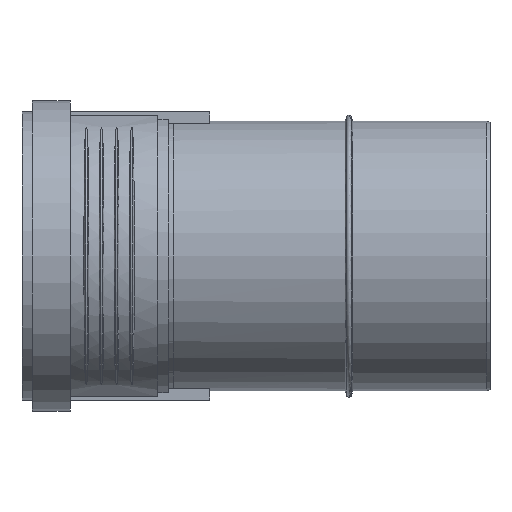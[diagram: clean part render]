
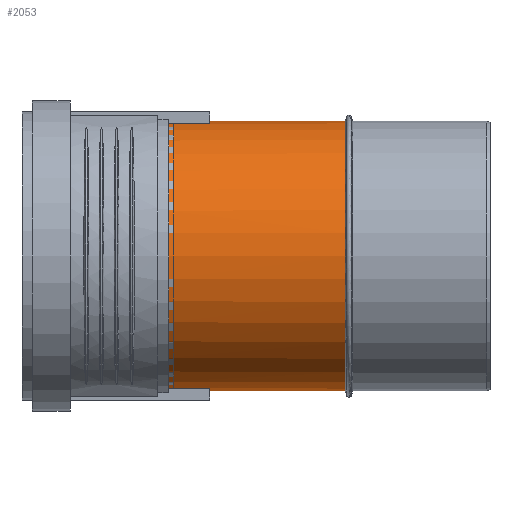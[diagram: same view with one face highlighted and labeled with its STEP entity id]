
A CAD part, left-side view. The second image highlights one B-rep face of the part: STEP entity #2053.
In plain terms, the highlighted cylindrical face has radius 80.125 mm (diameter 160.25 mm), a partial arc.
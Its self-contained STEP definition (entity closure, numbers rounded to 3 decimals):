
#262=CYLINDRICAL_SURFACE($,#2194,80.125);
#492=B_SPLINE_CURVE_WITH_KNOTS($,3,(#3081,#3082,#3083,#3084,#3085,#3086,
#3087,#3088,#3089,#3090,#3091,#3092,#3093,#3094,#3095,#3096),
 .UNSPECIFIED.,.F.,.F.,(4,2,2,2,2,2,2,4),(27.625,28.262,
29.339,30.416,31.494,32.573,33.651,
34.729),.UNSPECIFIED.);
#493=B_SPLINE_CURVE_WITH_KNOTS($,3,(#3098,#3099,#3100,#3101,#3102,#3103,
#3104,#3105,#3106,#3107,#3108,#3109,#3110,#3111,#3112,#3113),
 .UNSPECIFIED.,.F.,.F.,(4,2,2,2,2,2,2,4),(0.,1.108,2.215,
3.323,4.43,5.508,6.587,6.934),
 .UNSPECIFIED.);
#494=B_SPLINE_CURVE_WITH_KNOTS($,3,(#3116,#3117,#3118,#3119,#3120,#3121,
#3122,#3123,#3124,#3125,#3126,#3127,#3128,#3129,#3130,#3131,#3132,#3133,
#3134,#3135,#3136,#3137,#3138,#3139,#3140,#3141,#3142,#3143,#3144,#3145),
 .UNSPECIFIED.,.F.,.F.,(4,2,2,2,2,2,2,2,2,2,2,2,2,2,4),(10.553,
10.9,11.978,13.057,14.164,15.272,
16.379,17.487,18.565,19.643,20.722,
21.8,22.877,23.954,24.591),
 .UNSPECIFIED.);
#602=FACE_OUTER_BOUND($,#722,.T.);
#722=EDGE_LOOP($,(#1496,#1497,#1498,#1499,#1500));
#898=CIRCLE($,#2192,80.125);
#899=CIRCLE($,#2195,80.125);
#998=VERTEX_POINT($,#3063);
#999=VERTEX_POINT($,#3070);
#1000=VERTEX_POINT($,#3080);
#1001=VERTEX_POINT($,#3097);
#1002=VERTEX_POINT($,#3114);
#1209=EDGE_CURVE($,#998,#999,#898,.T.);
#1210=EDGE_CURVE($,#999,#1000,#492,.T.);
#1211=EDGE_CURVE($,#1000,#1001,#493,.T.);
#1212=EDGE_CURVE($,#1001,#1002,#899,.T.);
#1213=EDGE_CURVE($,#1002,#998,#494,.T.);
#1496=ORIENTED_EDGE($,*,*,#1209,.T.);
#1497=ORIENTED_EDGE($,*,*,#1210,.T.);
#1498=ORIENTED_EDGE($,*,*,#1211,.T.);
#1499=ORIENTED_EDGE($,*,*,#1212,.T.);
#1500=ORIENTED_EDGE($,*,*,#1213,.T.);
#2053=ADVANCED_FACE($,(#602),#262,.T.);
#2192=AXIS2_PLACEMENT_3D($,#3077,#2439,#2440);
#2194=AXIS2_PLACEMENT_3D($,#3079,#2443,#2444);
#2195=AXIS2_PLACEMENT_3D($,#3115,#2445,#2446);
#2439=DIRECTION('center_axis',(0.,1.,0.));
#2440=DIRECTION('ref_axis',(1.,0.,0.));
#2443=DIRECTION('center_axis',(0.,1.,0.));
#2444=DIRECTION('ref_axis',(1.,0.,0.));
#2445=DIRECTION('center_axis',(0.,-1.,0.));
#2446=DIRECTION('ref_axis',(1.,0.,0.));
#3063=CARTESIAN_POINT('',(78.651,86.1,-15.299));
#3070=CARTESIAN_POINT('',(78.651,86.1,15.299));
#3077=CARTESIAN_POINT('Origin',(0.,86.1,0.));
#3079=CARTESIAN_POINT('Origin',(0.,0.,0.));
#3080=CARTESIAN_POINT('',(58.172,138.19,55.1));
#3081=CARTESIAN_POINT('Ctrl Pts',(78.651,86.1,15.299));
#3082=CARTESIAN_POINT('Ctrl Pts',(78.242,86.691,17.403));
#3083=CARTESIAN_POINT('Ctrl Pts',(77.751,87.404,19.471));
#3084=CARTESIAN_POINT('Ctrl Pts',(76.249,89.625,24.868));
#3085=CARTESIAN_POINT('Ctrl Pts',(75.109,91.347,28.09));
#3086=CARTESIAN_POINT('Ctrl Pts',(72.621,95.278,34.008));
#3087=CARTESIAN_POINT('Ctrl Pts',(71.276,97.49,36.705));
#3088=CARTESIAN_POINT('Ctrl Pts',(68.616,102.168,41.465));
#3089=CARTESIAN_POINT('Ctrl Pts',(67.2,104.809,43.704));
#3090=CARTESIAN_POINT('Ctrl Pts',(64.444,110.585,47.675));
#3091=CARTESIAN_POINT('Ctrl Pts',(63.106,113.719,49.406));
#3092=CARTESIAN_POINT('Ctrl Pts',(60.799,120.333,52.219));
#3093=CARTESIAN_POINT('Ctrl Pts',(59.831,123.82,53.303));
#3094=CARTESIAN_POINT('Ctrl Pts',(58.515,130.951,54.744));
#3095=CARTESIAN_POINT('Ctrl Pts',(58.172,134.596,55.1));
#3096=CARTESIAN_POINT('Ctrl Pts',(58.172,138.19,55.1));
#3097=CARTESIAN_POINT('',(78.054,191.15,18.099));
#3098=CARTESIAN_POINT('Ctrl Pts',(58.172,138.19,55.1));
#3099=CARTESIAN_POINT('Ctrl Pts',(58.172,141.882,55.1));
#3100=CARTESIAN_POINT('Ctrl Pts',(58.533,145.62,54.725));
#3101=CARTESIAN_POINT('Ctrl Pts',(59.887,152.946,53.241));
#3102=CARTESIAN_POINT('Ctrl Pts',(60.874,156.534,52.132));
#3103=CARTESIAN_POINT('Ctrl Pts',(63.211,163.366,49.272));
#3104=CARTESIAN_POINT('Ctrl Pts',(64.56,166.615,47.518));
#3105=CARTESIAN_POINT('Ctrl Pts',(67.331,172.626,43.502));
#3106=CARTESIAN_POINT('Ctrl Pts',(68.753,175.387,41.239));
#3107=CARTESIAN_POINT('Ctrl Pts',(71.389,180.233,36.48));
#3108=CARTESIAN_POINT('Ctrl Pts',(72.709,182.512,33.816));
#3109=CARTESIAN_POINT('Ctrl Pts',(75.154,186.586,27.962));
#3110=CARTESIAN_POINT('Ctrl Pts',(76.28,188.38,24.772));
#3111=CARTESIAN_POINT('Ctrl Pts',(77.513,190.312,20.321));
#3112=CARTESIAN_POINT('Ctrl Pts',(77.795,190.749,19.218));
#3113=CARTESIAN_POINT('Ctrl Pts',(78.054,191.15,18.099));
#3114=CARTESIAN_POINT('',(78.054,191.15,-18.099));
#3115=CARTESIAN_POINT('Origin',(0.,191.15,0.));
#3116=CARTESIAN_POINT('Ctrl Pts',(78.054,191.15,-18.099));
#3117=CARTESIAN_POINT('Ctrl Pts',(77.795,190.749,-19.218));
#3118=CARTESIAN_POINT('Ctrl Pts',(77.513,190.312,-20.321));
#3119=CARTESIAN_POINT('Ctrl Pts',(76.28,188.38,-24.772));
#3120=CARTESIAN_POINT('Ctrl Pts',(75.154,186.586,-27.962));
#3121=CARTESIAN_POINT('Ctrl Pts',(72.709,182.512,-33.816));
#3122=CARTESIAN_POINT('Ctrl Pts',(71.389,180.233,-36.48));
#3123=CARTESIAN_POINT('Ctrl Pts',(68.753,175.387,-41.239));
#3124=CARTESIAN_POINT('Ctrl Pts',(67.331,172.626,-43.502));
#3125=CARTESIAN_POINT('Ctrl Pts',(64.56,166.615,-47.518));
#3126=CARTESIAN_POINT('Ctrl Pts',(63.211,163.366,-49.272));
#3127=CARTESIAN_POINT('Ctrl Pts',(60.874,156.534,-52.132));
#3128=CARTESIAN_POINT('Ctrl Pts',(59.887,152.946,-53.241));
#3129=CARTESIAN_POINT('Ctrl Pts',(58.533,145.62,-54.725));
#3130=CARTESIAN_POINT('Ctrl Pts',(58.172,141.882,-55.1));
#3131=CARTESIAN_POINT('Ctrl Pts',(58.172,134.596,-55.1));
#3132=CARTESIAN_POINT('Ctrl Pts',(58.515,130.951,-54.744));
#3133=CARTESIAN_POINT('Ctrl Pts',(59.831,123.82,-53.303));
#3134=CARTESIAN_POINT('Ctrl Pts',(60.799,120.333,-52.219));
#3135=CARTESIAN_POINT('Ctrl Pts',(63.106,113.719,-49.406));
#3136=CARTESIAN_POINT('Ctrl Pts',(64.444,110.585,-47.675));
#3137=CARTESIAN_POINT('Ctrl Pts',(67.2,104.809,-43.704));
#3138=CARTESIAN_POINT('Ctrl Pts',(68.616,102.168,-41.465));
#3139=CARTESIAN_POINT('Ctrl Pts',(71.276,97.49,-36.705));
#3140=CARTESIAN_POINT('Ctrl Pts',(72.621,95.278,-34.008));
#3141=CARTESIAN_POINT('Ctrl Pts',(75.109,91.347,-28.09));
#3142=CARTESIAN_POINT('Ctrl Pts',(76.249,89.625,-24.868));
#3143=CARTESIAN_POINT('Ctrl Pts',(77.751,87.404,-19.471));
#3144=CARTESIAN_POINT('Ctrl Pts',(78.242,86.691,-17.403));
#3145=CARTESIAN_POINT('Ctrl Pts',(78.651,86.1,-15.299));
